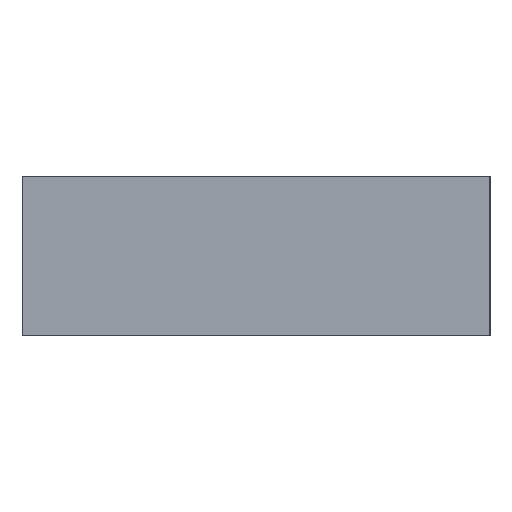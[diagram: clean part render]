
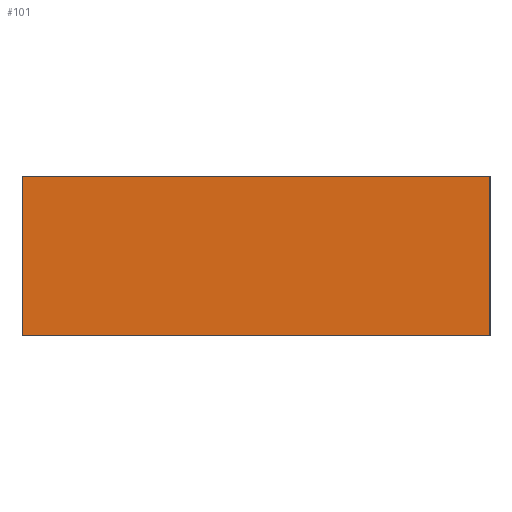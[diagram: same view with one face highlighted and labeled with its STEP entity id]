
A CAD part, left-side view. The second image highlights one B-rep face of the part: STEP entity #101.
In plain terms, the highlighted planar face has unit normal (-1, 0, 0).
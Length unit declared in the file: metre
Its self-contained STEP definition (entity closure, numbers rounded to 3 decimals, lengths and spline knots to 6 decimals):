
#24=ORIENTED_EDGE('',*,*,#38,.T.);
#25=ORIENTED_EDGE('',*,*,#46,.T.);
#26=ORIENTED_EDGE('',*,*,#43,.F.);
#27=ORIENTED_EDGE('',*,*,#47,.F.);
#38=EDGE_CURVE('',#51,#50,#58,.F.);
#43=EDGE_CURVE('',#54,#55,#63,.F.);
#46=EDGE_CURVE('',#50,#55,#66,.T.);
#47=EDGE_CURVE('',#51,#54,#67,.T.);
#50=VERTEX_POINT('',#147);
#51=VERTEX_POINT('',#149);
#54=VERTEX_POINT('',#159);
#55=VERTEX_POINT('',#160);
#58=LINE('',#148,#70);
#63=LINE('',#158,#75);
#66=LINE('',#164,#78);
#67=LINE('',#165,#79);
#70=VECTOR('',#121,1.);
#75=VECTOR('',#130,1.);
#78=VECTOR('',#135,1.);
#79=VECTOR('',#136,1.);
#83=EDGE_LOOP('',(#24,#25,#26,#27));
#89=FACE_BOUND('',#83,.T.);
#95=PLANE('',#112);
#101=ADVANCED_FACE('',(#89),#95,.T.);
#112=AXIS2_PLACEMENT_3D('',#163,#133,#134);
#121=DIRECTION('',(0.,0.,1.));
#130=DIRECTION('',(0.,0.,1.));
#133=DIRECTION('',(-1.,0.,0.));
#134=DIRECTION('',(0.,-1.,0.));
#135=DIRECTION('',(0.,-1.,0.));
#136=DIRECTION('',(0.,-1.,0.));
#147=CARTESIAN_POINT('',(-0.02331,-0.000147,-0.03005));
#148=CARTESIAN_POINT('',(-0.02331,-0.000147,-0.03));
#149=CARTESIAN_POINT('',(-0.02331,-0.000147,-0.03));
#158=CARTESIAN_POINT('',(-0.02331,-0.000294,-0.03));
#159=CARTESIAN_POINT('',(-0.02331,-0.000294,-0.03));
#160=CARTESIAN_POINT('',(-0.02331,-0.000294,-0.03005));
#163=CARTESIAN_POINT('',(-0.02331,-0.000147,-0.03));
#164=CARTESIAN_POINT('',(-0.02331,-0.000147,-0.03005));
#165=CARTESIAN_POINT('',(-0.02331,-0.00022,-0.03));
